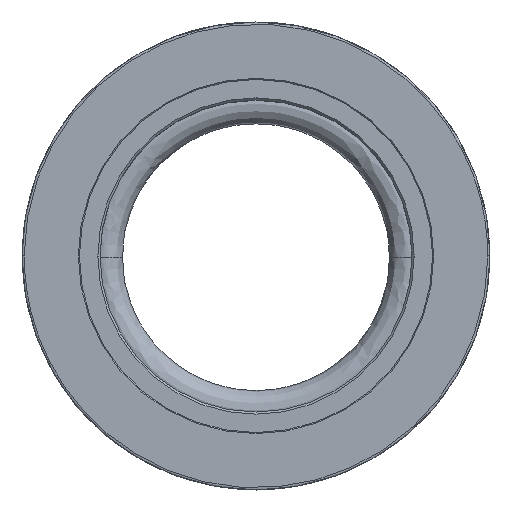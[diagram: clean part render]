
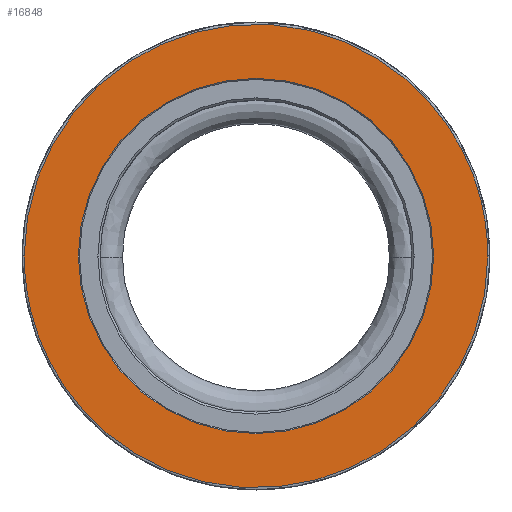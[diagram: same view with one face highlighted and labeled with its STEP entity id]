
A CAD part, top view. The second image highlights one B-rep face of the part: STEP entity #16848.
In plain terms, the highlighted planar face has unit normal (0, 0, 1).
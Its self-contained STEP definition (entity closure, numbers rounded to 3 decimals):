
#2339 = ORIENTED_EDGE ( 'NONE', *, *, #6496, .F. ) ;
#3517 = CARTESIAN_POINT ( 'NONE',  ( 2.718, 0., 0. ) ) ;
#6496 = EDGE_CURVE ( 'NONE', #11051, #33810, #11904, .T. ) ;
#6941 = AXIS2_PLACEMENT_3D ( 'NONE', #19101, #19107, #19108 ) ;
#6995 = AXIS2_PLACEMENT_3D ( 'NONE', #12972, #12973, #12974 ) ;
#7004 = AXIS2_PLACEMENT_3D ( 'NONE', #8823, #8825, #8827 ) ;
#7121 = ORIENTED_EDGE ( 'NONE', *, *, #17107, .T. ) ;
#7193 = ORIENTED_EDGE ( 'NONE', *, *, #17002, .F. ) ;
#7218 = ORIENTED_EDGE ( 'NONE', *, *, #17052, .T. ) ;
#7272 = EDGE_LOOP ( 'NONE', ( #7218, #7121 ) ) ;
#8823 = CARTESIAN_POINT ( 'NONE',  ( 0., 0., 0. ) ) ;
#8825 = DIRECTION ( 'NONE',  ( 0., 0., -1. ) ) ;
#8827 = DIRECTION ( 'NONE',  ( 1., 0., 0. ) ) ;
#11051 = VERTEX_POINT ( 'NONE', #3517 ) ;
#11904 =( BOUNDED_CURVE ( )  B_SPLINE_CURVE ( 3, ( #42536, #42525, #42527, #42538 ),
 .UNSPECIFIED., .F., .T. ) 
 B_SPLINE_CURVE_WITH_KNOTS ( ( 4, 4 ),
 ( 0., 0.5 ),
 .UNSPECIFIED. ) 
 CURVE ( )  GEOMETRIC_REPRESENTATION_ITEM ( )  RATIONAL_B_SPLINE_CURVE ( ( 1., 0.333, 0.333, 1. ) ) 
 REPRESENTATION_ITEM ( '' )  );
#12669 = CARTESIAN_POINT ( 'NONE',  ( -2.718, 0., 0. ) ) ;
#12679 = CARTESIAN_POINT ( 'NONE',  ( -2.718, 5.436, 0. ) ) ;
#12683 = CARTESIAN_POINT ( 'NONE',  ( 2.718, 5.436, 0. ) ) ;
#12684 = CARTESIAN_POINT ( 'NONE',  ( 2.718, 0., 0. ) ) ;
#12972 = CARTESIAN_POINT ( 'NONE',  ( 0., 0., 0. ) ) ;
#12973 = DIRECTION ( 'NONE',  ( 0., 0., -1. ) ) ;
#12974 = DIRECTION ( 'NONE',  ( 1., 0., 0. ) ) ;
#16848 = ADVANCED_FACE ( 'NONE', ( #40164, #40174 ), #19102, .T. ) ;
#17002 = EDGE_CURVE ( 'NONE', #33810, #11051, #17386, .T. ) ;
#17052 = EDGE_CURVE ( 'NONE', #34160, #34138, #40386, .T. ) ;
#17107 = EDGE_CURVE ( 'NONE', #34138, #34160, #40419, .T. ) ;
#17386 =( BOUNDED_CURVE ( )  B_SPLINE_CURVE ( 3, ( #12669, #12679, #12683, #12684 ),
 .UNSPECIFIED., .F., .T. ) 
 B_SPLINE_CURVE_WITH_KNOTS ( ( 4, 4 ),
 ( 0.5, 1. ),
 .UNSPECIFIED. ) 
 CURVE ( )  GEOMETRIC_REPRESENTATION_ITEM ( )  RATIONAL_B_SPLINE_CURVE ( ( 1., 0.333, 0.333, 1. ) ) 
 REPRESENTATION_ITEM ( '' )  );
#19101 = CARTESIAN_POINT ( 'NONE',  ( 2.07, 0., 0. ) ) ;
#19102 = PLANE ( 'NONE',  #6941 ) ;
#19107 = DIRECTION ( 'NONE',  ( 0., 0., 1. ) ) ;
#19108 = DIRECTION ( 'NONE',  ( 1., 0., 0. ) ) ;
#20016 = EDGE_LOOP ( 'NONE', ( #2339, #7193 ) ) ;
#33810 = VERTEX_POINT ( 'NONE', #38402 ) ;
#34138 = VERTEX_POINT ( 'NONE', #38512 ) ;
#34160 = VERTEX_POINT ( 'NONE', #38520 ) ;
#38402 = CARTESIAN_POINT ( 'NONE',  ( -2.718, 0., 0. ) ) ;
#38512 = CARTESIAN_POINT ( 'NONE',  ( -2.083, 0., 0. ) ) ;
#38520 = CARTESIAN_POINT ( 'NONE',  ( 2.083, 0., 0. ) ) ;
#40164 = FACE_OUTER_BOUND ( 'NONE', #20016, .T. ) ;
#40174 = FACE_BOUND ( 'NONE', #7272, .T. ) ;
#40386 = CIRCLE ( 'NONE', #6995, 2.083 ) ;
#40419 = CIRCLE ( 'NONE', #7004, 2.083 ) ;
#42525 = CARTESIAN_POINT ( 'NONE',  ( 2.718, -5.436, 0. ) ) ;
#42527 = CARTESIAN_POINT ( 'NONE',  ( -2.718, -5.436, 0. ) ) ;
#42536 = CARTESIAN_POINT ( 'NONE',  ( 2.718, 0., 0. ) ) ;
#42538 = CARTESIAN_POINT ( 'NONE',  ( -2.718, 0., 0. ) ) ;
